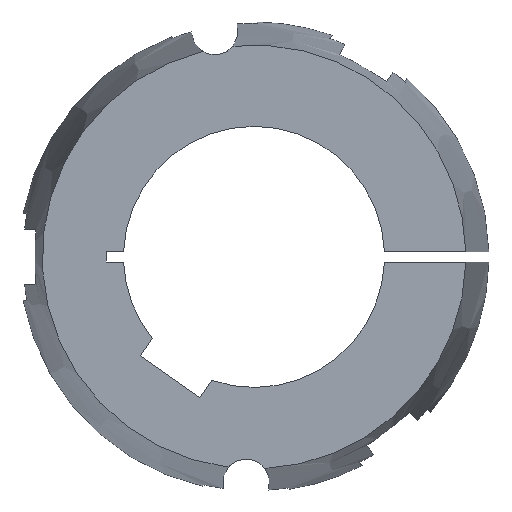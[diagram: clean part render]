
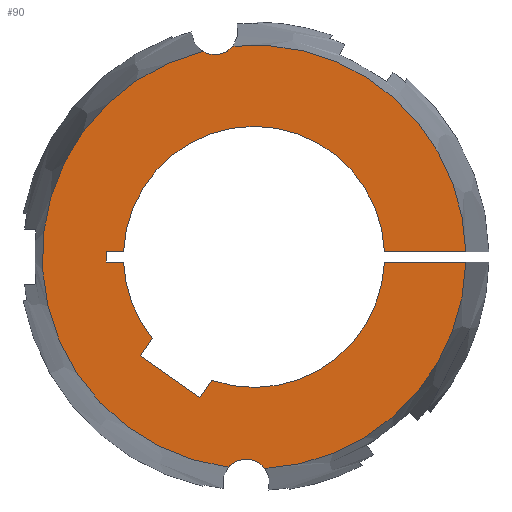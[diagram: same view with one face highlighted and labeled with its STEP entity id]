
A CAD part, left-side view. The second image highlights one B-rep face of the part: STEP entity #90.
In plain terms, the highlighted planar face has unit normal (-1, 0, 0).
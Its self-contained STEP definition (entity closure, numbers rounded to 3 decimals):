
#90 = ADVANCED_FACE( '', ( #140 ), #141, .F. );
#140 = FACE_OUTER_BOUND( '', #208, .T. );
#141 = PLANE( '', #209 );
#208 = EDGE_LOOP( '', ( #369, #370, #371, #372, #373, #374, #375, #376, #377, #378, #379, #380, #381, #382, #383, #384 ) );
#209 = AXIS2_PLACEMENT_3D( '', #385, #386, #387 );
#369 = ORIENTED_EDGE( '', *, *, #548, .F. );
#370 = ORIENTED_EDGE( '', *, *, #601, .F. );
#371 = ORIENTED_EDGE( '', *, *, #570, .T. );
#372 = ORIENTED_EDGE( '', *, *, #583, .T. );
#373 = ORIENTED_EDGE( '', *, *, #581, .T. );
#374 = ORIENTED_EDGE( '', *, *, #578, .T. );
#375 = ORIENTED_EDGE( '', *, *, #587, .T. );
#376 = ORIENTED_EDGE( '', *, *, #602, .T. );
#377 = ORIENTED_EDGE( '', *, *, #603, .T. );
#378 = ORIENTED_EDGE( '', *, *, #604, .T. );
#379 = ORIENTED_EDGE( '', *, *, #605, .T. );
#380 = ORIENTED_EDGE( '', *, *, #606, .T. );
#381 = ORIENTED_EDGE( '', *, *, #572, .T. );
#382 = ORIENTED_EDGE( '', *, *, #607, .F. );
#383 = ORIENTED_EDGE( '', *, *, #551, .F. );
#384 = ORIENTED_EDGE( '', *, *, #608, .F. );
#385 = CARTESIAN_POINT( '', ( -114., 0., 0. ) );
#386 = DIRECTION( '', ( 1., 0., 0. ) );
#387 = DIRECTION( '', ( 0., 1., 0. ) );
#548 = EDGE_CURVE( '', #649, #651, #652, .F. );
#551 = EDGE_CURVE( '', #655, #657, #658, .F. );
#570 = EDGE_CURVE( '', #693, #691, #694, .T. );
#572 = EDGE_CURVE( '', #696, #697, #698, .T. );
#578 = EDGE_CURVE( '', #709, #707, #710, .T. );
#581 = EDGE_CURVE( '', #714, #709, #715, .T. );
#583 = EDGE_CURVE( '', #691, #714, #717, .T. );
#587 = EDGE_CURVE( '', #707, #721, #723, .T. );
#601 = EDGE_CURVE( '', #693, #649, #745, .T. );
#602 = EDGE_CURVE( '', #721, #746, #747, .T. );
#603 = EDGE_CURVE( '', #746, #748, #749, .T. );
#604 = EDGE_CURVE( '', #748, #750, #751, .T. );
#605 = EDGE_CURVE( '', #750, #752, #753, .T. );
#606 = EDGE_CURVE( '', #752, #696, #754, .T. );
#607 = EDGE_CURVE( '', #657, #697, #755, .T. );
#608 = EDGE_CURVE( '', #651, #655, #756, .T. );
#649 = VERTEX_POINT( '', #815 );
#651 = VERTEX_POINT( '', #826 );
#652 = CIRCLE( '', #827, 8.125 );
#655 = VERTEX_POINT( '', #839 );
#657 = VERTEX_POINT( '', #852 );
#658 = CIRCLE( '', #853, 8.125 );
#691 = VERTEX_POINT( '', #920 );
#693 = VERTEX_POINT( '', #923 );
#694 = LINE( '', #924, #925 );
#696 = VERTEX_POINT( '', #933 );
#697 = VERTEX_POINT( '', #934 );
#698 = LINE( '', #935, #936 );
#707 = VERTEX_POINT( '', #954 );
#709 = VERTEX_POINT( '', #957 );
#710 = LINE( '', #958, #959 );
#714 = VERTEX_POINT( '', #965 );
#715 = LINE( '', #966, #967 );
#717 = CIRCLE( '', #970, 45. );
#721 = VERTEX_POINT( '', #975 );
#723 = LINE( '', #978, #979 );
#745 = CIRCLE( '', #1004, 73.028 );
#746 = VERTEX_POINT( '', #1005 );
#747 = CIRCLE( '', #1006, 45. );
#748 = VERTEX_POINT( '', #1007 );
#749 = LINE( '', #1008, #1009 );
#750 = VERTEX_POINT( '', #1010 );
#751 = LINE( '', #1011, #1012 );
#752 = VERTEX_POINT( '', #1013 );
#753 = LINE( '', #1014, #1015 );
#754 = CIRCLE( '', #1016, 45. );
#755 = CIRCLE( '', #1017, 73.028 );
#756 = CIRCLE( '', #1018, 73.028 );
#815 = CARTESIAN_POINT( '', ( -114., -3.751, -72.932 ) );
#826 = CARTESIAN_POINT( '', ( -114., 8.826, -72.493 ) );
#827 = AXIS2_PLACEMENT_3D( '', #1192, #1193, #1194 );
#839 = CARTESIAN_POINT( '', ( -114., 17.661, 70.861 ) );
#852 = CARTESIAN_POINT( '', ( -114., 7.262, 72.666 ) );
#853 = AXIS2_PLACEMENT_3D( '', #1195, #1196, #1197 );
#920 = CARTESIAN_POINT( '', ( -114., -44.966, -1.75 ) );
#923 = CARTESIAN_POINT( '', ( -114., -73.007, -1.75 ) );
#924 = CARTESIAN_POINT( '', ( -114., -81., -1.75 ) );
#925 = VECTOR( '', #1227, 1000. );
#933 = CARTESIAN_POINT( '', ( -114., -44.966, 1.75 ) );
#934 = CARTESIAN_POINT( '', ( -114., -73.007, 1.75 ) );
#935 = CARTESIAN_POINT( '', ( -114., 0., 1.75 ) );
#936 = VECTOR( '', #1228, 1000. );
#954 = CARTESIAN_POINT( '', ( -114., 39.148, -34.116 ) );
#957 = CARTESIAN_POINT( '', ( -114., 18.669, -48.455 ) );
#958 = CARTESIAN_POINT( '', ( -114., 18.669, -48.455 ) );
#959 = VECTOR( '', #1233, 1000. );
#965 = CARTESIAN_POINT( '', ( -114., 14.556, -42.581 ) );
#966 = CARTESIAN_POINT( '', ( -114., 14.556, -42.581 ) );
#967 = VECTOR( '', #1236, 1000. );
#970 = AXIS2_PLACEMENT_3D( '', #1238, #1239, #1240 );
#975 = CARTESIAN_POINT( '', ( -114., 35.035, -28.241 ) );
#978 = CARTESIAN_POINT( '', ( -114., 39.148, -34.116 ) );
#979 = VECTOR( '', #1246, 1000. );
#1004 = AXIS2_PLACEMENT_3D( '', #1280, #1281, #1282 );
#1005 = CARTESIAN_POINT( '', ( -114., 44.966, -1.75 ) );
#1006 = AXIS2_PLACEMENT_3D( '', #1283, #1284, #1285 );
#1007 = CARTESIAN_POINT( '', ( -114., 51., -1.75 ) );
#1008 = CARTESIAN_POINT( '', ( -114., 0., -1.75 ) );
#1009 = VECTOR( '', #1286, 1000. );
#1010 = CARTESIAN_POINT( '', ( -114., 51., 1.75 ) );
#1011 = CARTESIAN_POINT( '', ( -114., 51., -1.75 ) );
#1012 = VECTOR( '', #1287, 1000. );
#1013 = CARTESIAN_POINT( '', ( -114., 44.966, 1.75 ) );
#1014 = CARTESIAN_POINT( '', ( -114., 51., 1.75 ) );
#1015 = VECTOR( '', #1288, 1000. );
#1016 = AXIS2_PLACEMENT_3D( '', #1289, #1290, #1291 );
#1017 = AXIS2_PLACEMENT_3D( '', #1292, #1293, #1294 );
#1018 = AXIS2_PLACEMENT_3D( '', #1295, #1296, #1297 );
#1192 = CARTESIAN_POINT( '', ( -114., 2.717, -77.85 ) );
#1193 = DIRECTION( '', ( 1., 0., 0. ) );
#1194 = DIRECTION( '', ( 0., 1., 0. ) );
#1195 = CARTESIAN_POINT( '', ( -114., 13.519, 77.85 ) );
#1196 = DIRECTION( '', ( 1., 0., 0. ) );
#1197 = DIRECTION( '', ( 0., 1., 0. ) );
#1227 = DIRECTION( '', ( 0., 1., 0. ) );
#1228 = DIRECTION( '', ( 0., -1., 0. ) );
#1233 = DIRECTION( '', ( 0., 0.819, 0.574 ) );
#1236 = DIRECTION( '', ( 0., 0.574, -0.819 ) );
#1238 = CARTESIAN_POINT( '', ( -114., 0., 0. ) );
#1239 = DIRECTION( '', ( 1., 0., 0. ) );
#1240 = DIRECTION( '', ( 0., 0., -1. ) );
#1246 = DIRECTION( '', ( 0., -0.574, 0.819 ) );
#1280 = CARTESIAN_POINT( '', ( -114., 0., 0. ) );
#1281 = DIRECTION( '', ( 1., 0., 0. ) );
#1282 = DIRECTION( '', ( 0., 1., 0. ) );
#1283 = CARTESIAN_POINT( '', ( -114., 0., 0. ) );
#1284 = DIRECTION( '', ( 1., 0., 0. ) );
#1285 = DIRECTION( '', ( 0., 0., -1. ) );
#1286 = DIRECTION( '', ( 0., 1., 0. ) );
#1287 = DIRECTION( '', ( 0., 0., 1. ) );
#1288 = DIRECTION( '', ( 0., -1., 0. ) );
#1289 = CARTESIAN_POINT( '', ( -114., 0., 0. ) );
#1290 = DIRECTION( '', ( 1., 0., 0. ) );
#1291 = DIRECTION( '', ( 0., 0., -1. ) );
#1292 = CARTESIAN_POINT( '', ( -114., 0., 0. ) );
#1293 = DIRECTION( '', ( 1., 0., 0. ) );
#1294 = DIRECTION( '', ( 0., 1., 0. ) );
#1295 = CARTESIAN_POINT( '', ( -114., 0., 0. ) );
#1296 = DIRECTION( '', ( 1., 0., 0. ) );
#1297 = DIRECTION( '', ( 0., 1., 0. ) );
